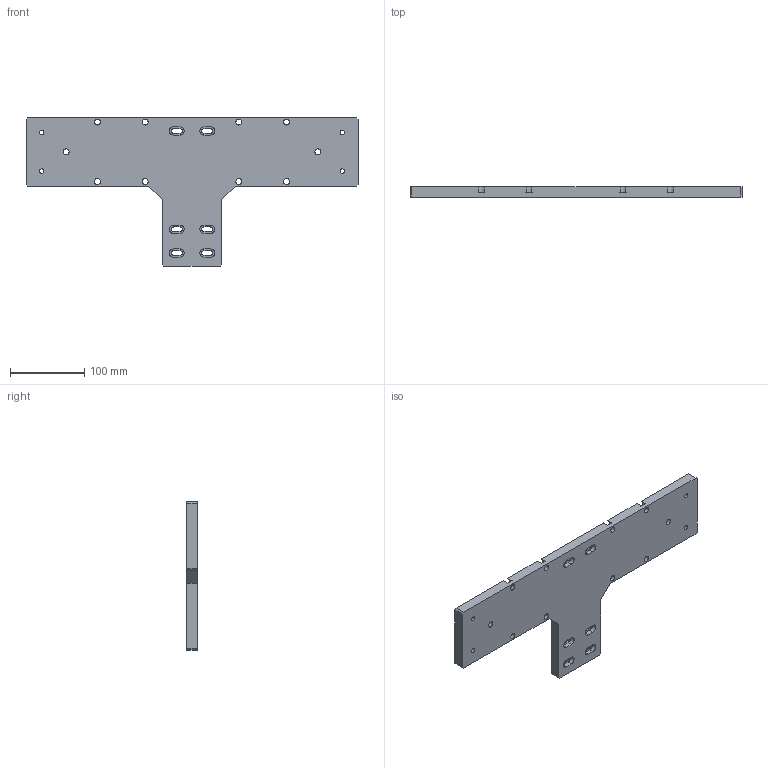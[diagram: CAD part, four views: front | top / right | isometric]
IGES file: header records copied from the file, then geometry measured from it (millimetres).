
Start section:  PTC IGES file: n80-n100l-st.igs
Global section: file name: n80-n100l-st.igs; native system: Pro/ENGINEER by Parametric Technology Corporation; preprocessor: 2008230; author: Owner; organization: Unknown; date: 20121212.092655; units: millimetre
Bounding box: 446 x 14 x 200 mm (x, y, z)
Surface area: 124617.1 mm2 (no closed solid volume)
Topology: 0 solids, 0 shells, 134 faces, 720 edges, 720 vertices
Faces by surface type: revolution 72, bspline 62
